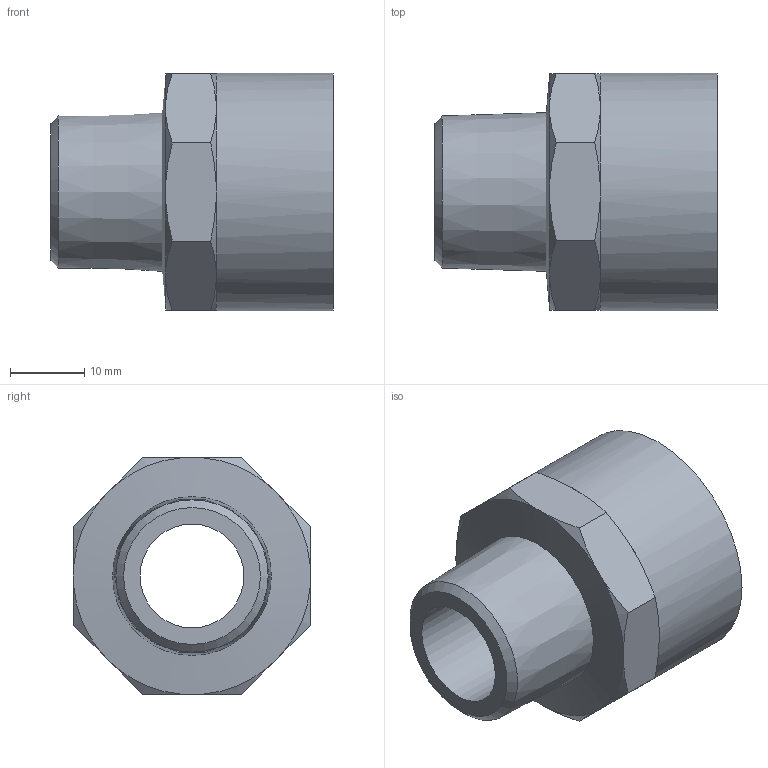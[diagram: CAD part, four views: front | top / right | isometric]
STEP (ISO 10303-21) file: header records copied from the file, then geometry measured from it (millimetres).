
FILE_DESCRIPTION((''),'2;1');
FILE_NAME('\\Lg50001\Groups\SANHA Legnica\Engineering\Public\RYSUNKI\SANHA POLSKA\4243G\step\14243_28-12(1).stp','2008-08-25T15:49:27',('pajchrowski'),(''),'Autodesk Inventor 2008','Autodesk Inventor 2008','');
FILE_SCHEMA(('AUTOMOTIVE_DESIGN { 1 0 10303 214 1 1 1 1 }'));
Length unit declared in the file: millimetre
Products named in the file (1): 14243_28-12(1)
Bounding box: 38 x 32 x 32 mm (x, y, z)
Volume: 8908.7 mm3; surface area: 6998.2 mm2
Topology: 1 solids, 1 shells, 42 faces, 98 edges, 59 vertices
Faces by surface type: cone 20, plane 19, cylinder 3
Full cylindrical faces by diameter (mm): 14 x1, 28.13 x1, 32 x1
Entity records: 1120 total; most frequent: CARTESIAN_POINT 269, ORIENTED_EDGE 178, DIRECTION 168, EDGE_CURVE 89, AXIS2_PLACEMENT_3D 76, VERTEX_POINT 57, EDGE_LOOP 52, FACE_OUTER_BOUND 42
